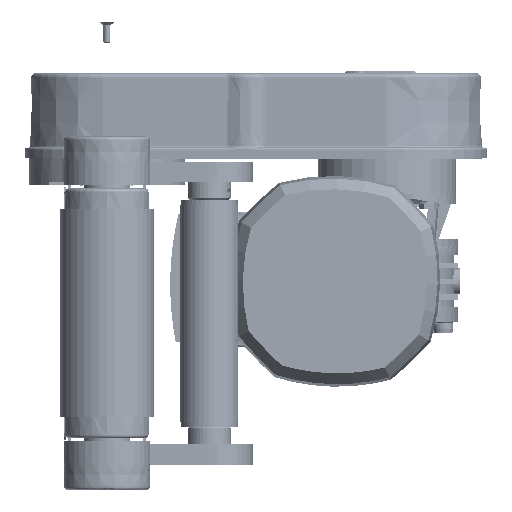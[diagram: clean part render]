
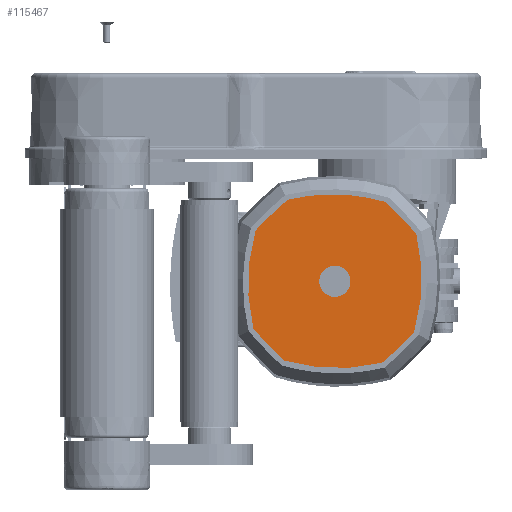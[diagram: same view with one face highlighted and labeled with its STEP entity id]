
A CAD part, left-side view. The second image highlights one B-rep face of the part: STEP entity #115467.
In plain terms, the highlighted planar face has unit normal (-1, 0, 0).
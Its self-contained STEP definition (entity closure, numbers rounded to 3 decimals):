
#911 = AXIS2_PLACEMENT_3D ( 'NONE', #130790, #101238, #16304 ) ;
#995 = CARTESIAN_POINT ( 'NONE',  ( -639.243, 183.791, -5.221 ) ) ;
#3395 = CIRCLE ( 'NONE', #79496, 240.084 ) ;
#4832 = ORIENTED_EDGE ( 'NONE', *, *, #126904, .T. ) ;
#4837 = DIRECTION ( 'NONE',  ( 1., 0., 0. ) ) ;
#6043 = AXIS2_PLACEMENT_3D ( 'NONE', #106840, #61131, #119272 ) ;
#7587 = CIRCLE ( 'NONE', #19849, 110.084 ) ;
#9845 = FACE_OUTER_BOUND ( 'NONE', #178608, .T. ) ;
#13418 = EDGE_LOOP ( 'NONE', ( #172498, #128055 ) ) ;
#13953 = VERTEX_POINT ( 'NONE', #37468 ) ;
#15558 = AXIS2_PLACEMENT_3D ( 'NONE', #75911, #134108, #61620 ) ;
#16304 = DIRECTION ( 'NONE',  ( 0., 0., 1. ) ) ;
#17217 = EDGE_CURVE ( 'NONE', #157491, #59705, #7587, .T. ) ;
#17400 = CARTESIAN_POINT ( 'NONE',  ( -639.243, 100.299, -110.945 ) ) ;
#17627 = EDGE_CURVE ( 'NONE', #188153, #160066, #169306, .T. ) ;
#17726 = ORIENTED_EDGE ( 'NONE', *, *, #92740, .T. ) ;
#18330 = DIRECTION ( 'NONE',  ( -1., 0., 0. ) ) ;
#18977 = VERTEX_POINT ( 'NONE', #47774 ) ;
#19849 = AXIS2_PLACEMENT_3D ( 'NONE', #67103, #125248, #184357 ) ;
#28690 = CIRCLE ( 'NONE', #89691, 9. ) ;
#28753 = ORIENTED_EDGE ( 'NONE', *, *, #86189, .T. ) ;
#29093 = CARTESIAN_POINT ( 'NONE',  ( -639.243, 94.485, 153.345 ) ) ;
#29311 = CARTESIAN_POINT ( 'NONE',  ( -639.243, 256.825, 71.098 ) ) ;
#31928 = DIRECTION ( 'NONE',  ( 1., 0., 0. ) ) ;
#32949 = ORIENTED_EDGE ( 'NONE', *, *, #17627, .T. ) ;
#37468 = CARTESIAN_POINT ( 'NONE',  ( -639.243, 228.436, 74.178 ) ) ;
#39182 = CARTESIAN_POINT ( 'NONE',  ( -639.243, 258.865, -21.639 ) ) ;
#41000 = CIRCLE ( 'NONE', #153581, 9. ) ;
#41747 = CIRCLE ( 'NONE', #66123, 110.084 ) ;
#42322 = DIRECTION ( 'NONE',  ( 0., 0., 1. ) ) ;
#42354 = CARTESIAN_POINT ( 'NONE',  ( -639.243, 229.537, 24.107 ) ) ;
#43244 = EDGE_CURVE ( 'NONE', #181955, #13953, #166365, .T. ) ;
#47618 = CARTESIAN_POINT ( 'NONE',  ( -639.243, 200.209, 69.853 ) ) ;
#47774 = CARTESIAN_POINT ( 'NONE',  ( -639.243, 229.735, 15.109 ) ) ;
#52792 = FACE_BOUND ( 'NONE', #13418, .T. ) ;
#58817 = CIRCLE ( 'NONE', #911, 240.084 ) ;
#59650 = AXIS2_PLACEMENT_3D ( 'NONE', #17400, #18330, #76509 ) ;
#59705 = VERTEX_POINT ( 'NONE', #64713 ) ;
#61131 = DIRECTION ( 'NONE',  ( -1., 0., 0. ) ) ;
#61620 = DIRECTION ( 'NONE',  ( 0., 0., 1. ) ) ;
#64713 = CARTESIAN_POINT ( 'NONE',  ( -639.243, 202.249, -22.884 ) ) ;
#66123 = AXIS2_PLACEMENT_3D ( 'NONE', #138080, #152361, #91400 ) ;
#67103 = CARTESIAN_POINT ( 'NONE',  ( -639.243, 228.218, 84.093 ) ) ;
#73566 = CARTESIAN_POINT ( 'NONE',  ( -639.243, 364.589, -105.131 ) ) ;
#75911 = CARTESIAN_POINT ( 'NONE',  ( -639.243, 289.523, 25.427 ) ) ;
#76509 = DIRECTION ( 'NONE',  ( 0., 0., 1. ) ) ;
#77219 = VERTEX_POINT ( 'NONE', #83466 ) ;
#78191 = AXIS2_PLACEMENT_3D ( 'NONE', #73566, #172764, #174645 ) ;
#79496 = AXIS2_PLACEMENT_3D ( 'NONE', #29093, #184552, #186418 ) ;
#82332 = CARTESIAN_POINT ( 'NONE',  ( -639.243, 279.095, 75.894 ) ) ;
#83466 = CARTESIAN_POINT ( 'NONE',  ( -639.243, 182.546, 51.395 ) ) ;
#86189 = EDGE_CURVE ( 'NONE', #77219, #181955, #151290, .T. ) ;
#88297 = CIRCLE ( 'NONE', #6043, 110.084 ) ;
#89691 = AXIS2_PLACEMENT_3D ( 'NONE', #42354, #4837, #146262 ) ;
#91400 = DIRECTION ( 'NONE',  ( 0., 0., 1. ) ) ;
#92740 = EDGE_CURVE ( 'NONE', #160066, #154706, #41747, .T. ) ;
#98529 = PLANE ( 'NONE',  #121603 ) ;
#101238 = DIRECTION ( 'NONE',  ( -1., 0., 0. ) ) ;
#103833 = EDGE_CURVE ( 'NONE', #18977, #151118, #41000, .T. ) ;
#104406 = CARTESIAN_POINT ( 'NONE',  ( -639.243, 229.537, 24.107 ) ) ;
#106840 = CARTESIAN_POINT ( 'NONE',  ( -639.243, 230.857, -35.878 ) ) ;
#111399 = ORIENTED_EDGE ( 'NONE', *, *, #142682, .T. ) ;
#115467 = ADVANCED_FACE ( 'NONE', ( #52792, #9845 ), #98529, .T. ) ;
#119272 = DIRECTION ( 'NONE',  ( 0., 0., 1. ) ) ;
#121603 = AXIS2_PLACEMENT_3D ( 'NONE', #82332, #140495, #142388 ) ;
#125248 = DIRECTION ( 'NONE',  ( -1., 0., 0. ) ) ;
#125259 = ORIENTED_EDGE ( 'NONE', *, *, #184382, .T. ) ;
#126904 = EDGE_CURVE ( 'NONE', #154706, #157491, #3395, .T. ) ;
#127955 = CARTESIAN_POINT ( 'NONE',  ( -639.243, 229.339, 33.105 ) ) ;
#128055 = ORIENTED_EDGE ( 'NONE', *, *, #132606, .T. ) ;
#129511 = EDGE_CURVE ( 'NONE', #59705, #148256, #58817, .T. ) ;
#130790 = CARTESIAN_POINT ( 'NONE',  ( -639.243, 358.775, 159.159 ) ) ;
#132606 = EDGE_CURVE ( 'NONE', #151118, #18977, #28690, .T. ) ;
#134108 = DIRECTION ( 'NONE',  ( -1., 0., 0. ) ) ;
#135436 = ORIENTED_EDGE ( 'NONE', *, *, #17217, .T. ) ;
#138080 = CARTESIAN_POINT ( 'NONE',  ( -639.243, 169.552, 22.788 ) ) ;
#140495 = DIRECTION ( 'NONE',  ( -1., 0., 0. ) ) ;
#142388 = DIRECTION ( 'NONE',  ( 0., 0., 1. ) ) ;
#142682 = EDGE_CURVE ( 'NONE', #13953, #188153, #88297, .T. ) ;
#146262 = DIRECTION ( 'NONE',  ( 0., 0., 1. ) ) ;
#148256 = VERTEX_POINT ( 'NONE', #995 ) ;
#151118 = VERTEX_POINT ( 'NONE', #127955 ) ;
#151290 = CIRCLE ( 'NONE', #78191, 240.084 ) ;
#152361 = DIRECTION ( 'NONE',  ( -1., 0., 0. ) ) ;
#153581 = AXIS2_PLACEMENT_3D ( 'NONE', #104406, #31928, #174973 ) ;
#154111 = AXIS2_PLACEMENT_3D ( 'NONE', #186299, #156793, #42322 ) ;
#154646 = ORIENTED_EDGE ( 'NONE', *, *, #43244, .T. ) ;
#154706 = VERTEX_POINT ( 'NONE', #163029 ) ;
#156793 = DIRECTION ( 'NONE',  ( -1., 0., 0. ) ) ;
#157491 = VERTEX_POINT ( 'NONE', #39182 ) ;
#160066 = VERTEX_POINT ( 'NONE', #171308 ) ;
#163029 = CARTESIAN_POINT ( 'NONE',  ( -639.243, 276.528, -3.181 ) ) ;
#166365 = CIRCLE ( 'NONE', #154111, 110.084 ) ;
#169306 = CIRCLE ( 'NONE', #59650, 240.084 ) ;
#171308 = CARTESIAN_POINT ( 'NONE',  ( -639.243, 275.283, 53.435 ) ) ;
#172498 = ORIENTED_EDGE ( 'NONE', *, *, #103833, .T. ) ;
#172764 = DIRECTION ( 'NONE',  ( -1., 0., 0. ) ) ;
#174645 = DIRECTION ( 'NONE',  ( 0., 0., 1. ) ) ;
#174973 = DIRECTION ( 'NONE',  ( 0., 0., 1. ) ) ;
#178608 = EDGE_LOOP ( 'NONE', ( #111399, #32949, #17726, #4832, #135436, #179007, #125259, #28753, #154646 ) ) ;
#179007 = ORIENTED_EDGE ( 'NONE', *, *, #129511, .T. ) ;
#179981 = CIRCLE ( 'NONE', #15558, 110.084 ) ;
#181955 = VERTEX_POINT ( 'NONE', #47618 ) ;
#184357 = DIRECTION ( 'NONE',  ( 0., 0., 1. ) ) ;
#184382 = EDGE_CURVE ( 'NONE', #148256, #77219, #179981, .T. ) ;
#184552 = DIRECTION ( 'NONE',  ( -1., 0., 0. ) ) ;
#186299 = CARTESIAN_POINT ( 'NONE',  ( -639.243, 230.857, -35.878 ) ) ;
#186418 = DIRECTION ( 'NONE',  ( 0., 0., 1. ) ) ;
#188153 = VERTEX_POINT ( 'NONE', #29311 ) ;
